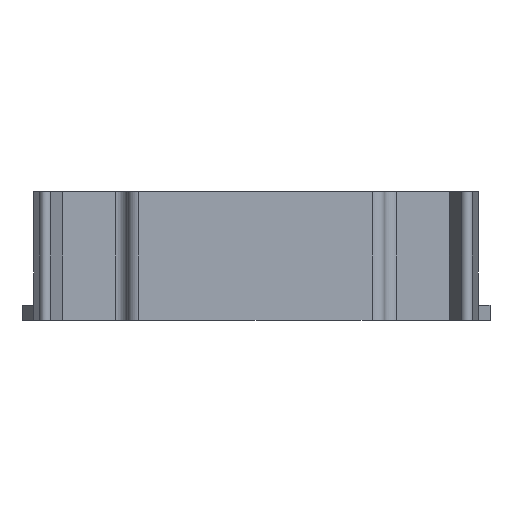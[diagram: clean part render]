
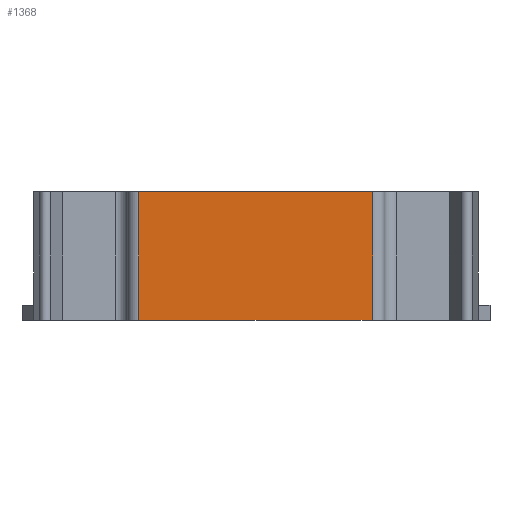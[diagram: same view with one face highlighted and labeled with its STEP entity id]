
A CAD part, front view. The second image highlights one B-rep face of the part: STEP entity #1368.
In plain terms, the highlighted planar face has unit normal (0, -1, 0).
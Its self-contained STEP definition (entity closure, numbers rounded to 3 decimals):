
#33=PLANE('',#1479);
#94=FACE_OUTER_BOUND('',#168,.T.);
#168=EDGE_LOOP('',(#1045,#1046,#1047,#1048));
#293=LINE('',#2110,#463);
#294=LINE('',#2116,#464);
#295=LINE('',#2117,#465);
#296=LINE('',#2118,#466);
#463=VECTOR('',#1692,10.);
#464=VECTOR('',#1699,10.);
#465=VECTOR('',#1700,10.);
#466=VECTOR('',#1701,10.);
#663=VERTEX_POINT('',#2108);
#664=VERTEX_POINT('',#2109);
#665=VERTEX_POINT('',#2114);
#666=VERTEX_POINT('',#2115);
#813=EDGE_CURVE('',#663,#664,#293,.T.);
#816=EDGE_CURVE('',#665,#666,#294,.T.);
#817=EDGE_CURVE('',#663,#665,#295,.T.);
#818=EDGE_CURVE('',#666,#664,#296,.T.);
#1045=ORIENTED_EDGE('',*,*,#816,.F.);
#1046=ORIENTED_EDGE('',*,*,#817,.F.);
#1047=ORIENTED_EDGE('',*,*,#813,.T.);
#1048=ORIENTED_EDGE('',*,*,#818,.F.);
#1368=ADVANCED_FACE('',(#94),#33,.T.);
#1479=AXIS2_PLACEMENT_3D('',#2113,#1697,#1698);
#1692=DIRECTION('',(0.,0.,-1.));
#1697=DIRECTION('center_axis',(0.,-1.,0.));
#1698=DIRECTION('ref_axis',(1.,0.,0.));
#1699=DIRECTION('',(0.,0.,-1.));
#1700=DIRECTION('',(1.,0.,0.));
#1701=DIRECTION('',(-1.,0.,0.));
#2108=CARTESIAN_POINT('',(-10.,-15.2,11.));
#2109=CARTESIAN_POINT('',(-10.,-15.2,0.));
#2110=CARTESIAN_POINT('',(-10.,-15.2,11.));
#2113=CARTESIAN_POINT('Origin',(-20.,-15.2,0.));
#2114=CARTESIAN_POINT('',(10.,-15.2,11.));
#2115=CARTESIAN_POINT('',(10.,-15.2,0.));
#2116=CARTESIAN_POINT('',(10.,-15.2,11.));
#2117=CARTESIAN_POINT('',(-10.,-15.2,11.));
#2118=CARTESIAN_POINT('',(5.,-15.2,0.));
